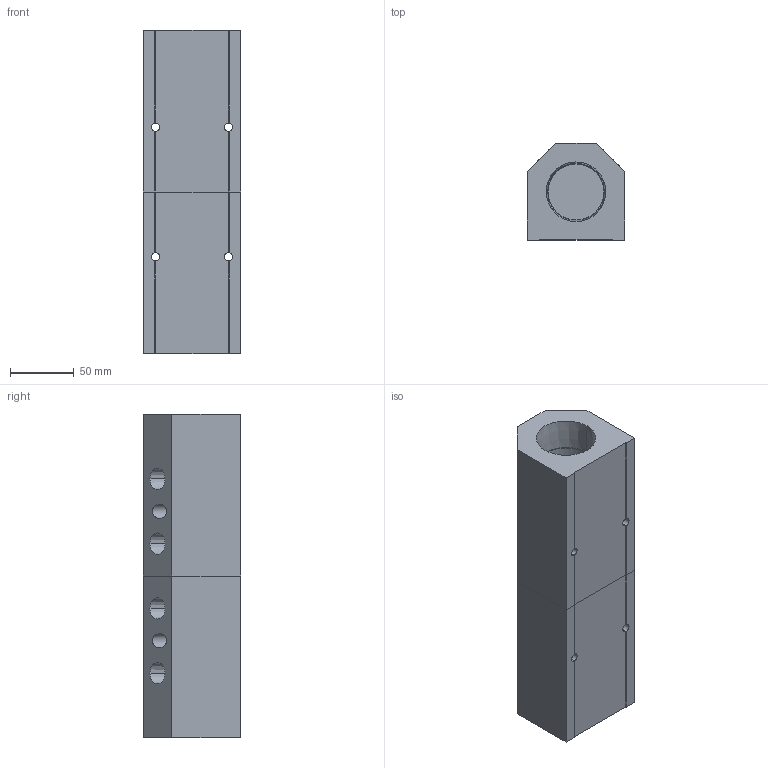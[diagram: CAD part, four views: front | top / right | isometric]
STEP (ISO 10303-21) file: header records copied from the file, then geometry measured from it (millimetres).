
FILE_DESCRIPTION (( 'STEP AP214' ), '1' );
FILE_NAME ('ALM4BCD-N6N24-254RB.step', '2022-02-07T09:15:58', ( '' ), ( '' ), 'SwSTEP 2.0', 'SolidWorks 2020', '' );
FILE_SCHEMA (( 'AUTOMOTIVE_DESIGN' ));
Length unit declared in the file: millimetre
Products named in the file (1): ALM4BCD-N6N24-254RB
Bounding box: 76.2 x 76.2 x 254 mm (x, y, z)
Volume: 901117.3 mm3; surface area: 137709.3 mm2
Topology: 2 solids, 2 shells, 377 faces, 991 edges, 658 vertices
Faces by surface type: plane 259, bspline 70, cone 28, cylinder 20
Entity records: 20708 total; most frequent: CARTESIAN_POINT 8269, ORIENTED_EDGE 1982, DIRECTION 1491, EDGE_CURVE 991, LINE 747, VECTOR 747, VERTEX_POINT 658, EDGE_LOOP 449
